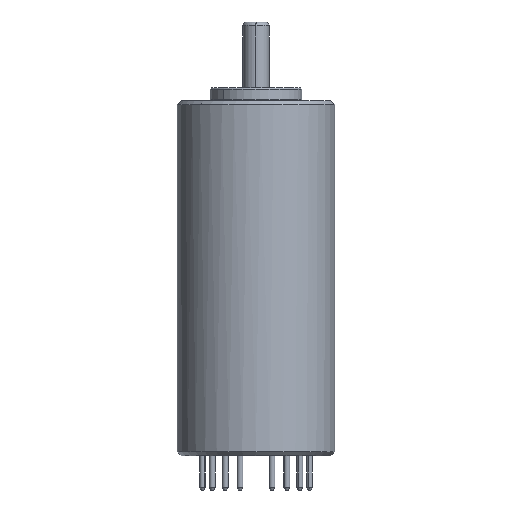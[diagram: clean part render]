
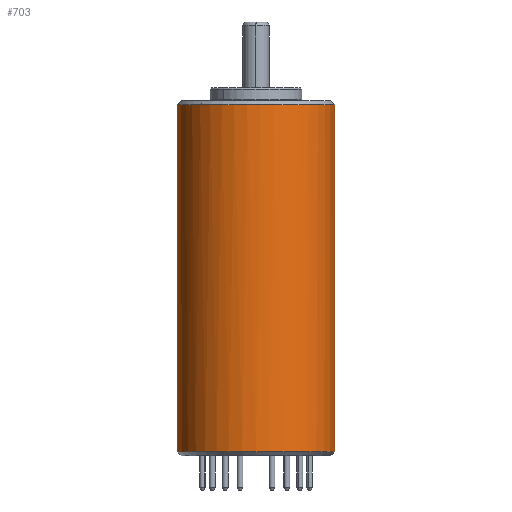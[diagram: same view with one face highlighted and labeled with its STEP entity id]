
A CAD part, front view. The second image highlights one B-rep face of the part: STEP entity #703.
In plain terms, the highlighted cylindrical face has radius 6 mm (diameter 12 mm), a partial arc.
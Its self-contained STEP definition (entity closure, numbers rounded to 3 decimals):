
#7 = CIRCLE ( 'NONE', #730, 6. ) ;
#52 = VECTOR ( 'NONE', #4011, 1000. ) ;
#261 = CARTESIAN_POINT ( 'NONE',  ( -6., 0., -1. ) ) ;
#286 = CARTESIAN_POINT ( 'NONE',  ( 0., 0., -1. ) ) ;
#291 = EDGE_CURVE ( 'NONE', #3947, #651, #3375, .T. ) ;
#323 = CARTESIAN_POINT ( 'NONE',  ( -6., 0., 25.2 ) ) ;
#583 = CARTESIAN_POINT ( 'NONE',  ( 0., 0., 25.2 ) ) ;
#651 = VERTEX_POINT ( 'NONE', #3465 ) ;
#703 = ADVANCED_FACE ( 'NONE', ( #5512 ), #2435, .T. ) ;
#730 = AXIS2_PLACEMENT_3D ( 'NONE', #2423, #3723, #3293 ) ;
#807 = VERTEX_POINT ( 'NONE', #323 ) ;
#1094 = CARTESIAN_POINT ( 'NONE',  ( 0., 0., -1.2 ) ) ;
#1185 = AXIS2_PLACEMENT_3D ( 'NONE', #583, #1538, #1434 ) ;
#1259 = LINE ( 'NONE', #2268, #52 ) ;
#1291 = ORIENTED_EDGE ( 'NONE', *, *, #291, .T. ) ;
#1434 = DIRECTION ( 'NONE',  ( 0.707, 0.707, 0. ) ) ;
#1538 = DIRECTION ( 'NONE',  ( 0., 0., -1. ) ) ;
#1586 = DIRECTION ( 'NONE',  ( -1., 0., 0. ) ) ;
#1644 = VERTEX_POINT ( 'NONE', #1930 ) ;
#1704 = EDGE_CURVE ( 'NONE', #651, #807, #7, .T. ) ;
#1930 = CARTESIAN_POINT ( 'NONE',  ( -6., 0., -1.2 ) ) ;
#2143 = EDGE_CURVE ( 'NONE', #807, #1644, #5543, .T. ) ;
#2268 = CARTESIAN_POINT ( 'NONE',  ( 6., 0., -1. ) ) ;
#2277 = VERTEX_POINT ( 'NONE', #3461 ) ;
#2362 = ORIENTED_EDGE ( 'NONE', *, *, #1704, .T. ) ;
#2422 = DIRECTION ( 'NONE',  ( 1., 0., 0. ) ) ;
#2423 = CARTESIAN_POINT ( 'NONE',  ( 0., 0., 25.2 ) ) ;
#2435 = CYLINDRICAL_SURFACE ( 'NONE', #5309, 6. ) ;
#2844 = DIRECTION ( 'NONE',  ( 0., 0., 1. ) ) ;
#3009 = EDGE_CURVE ( 'NONE', #3947, #2277, #1259, .T. ) ;
#3273 = ORIENTED_EDGE ( 'NONE', *, *, #3474, .T. ) ;
#3293 = DIRECTION ( 'NONE',  ( 0.707, 0.707, 0. ) ) ;
#3370 = DIRECTION ( 'NONE',  ( 0., 0., -1. ) ) ;
#3375 = CIRCLE ( 'NONE', #1185, 6. ) ;
#3405 = AXIS2_PLACEMENT_3D ( 'NONE', #1094, #2844, #2422 ) ;
#3461 = CARTESIAN_POINT ( 'NONE',  ( 6., 0., -1.2 ) ) ;
#3465 = CARTESIAN_POINT ( 'NONE',  ( -4.243, -4.243, 25.2 ) ) ;
#3471 = ORIENTED_EDGE ( 'NONE', *, *, #2143, .T. ) ;
#3474 = EDGE_CURVE ( 'NONE', #1644, #2277, #4314, .T. ) ;
#3723 = DIRECTION ( 'NONE',  ( 0., 0., -1. ) ) ;
#3820 = CARTESIAN_POINT ( 'NONE',  ( 6., 0., 25.2 ) ) ;
#3947 = VERTEX_POINT ( 'NONE', #3820 ) ;
#4011 = DIRECTION ( 'NONE',  ( 0., 0., -1. ) ) ;
#4314 = CIRCLE ( 'NONE', #3405, 6. ) ;
#4471 = ORIENTED_EDGE ( 'NONE', *, *, #3009, .F. ) ;
#5107 = EDGE_LOOP ( 'NONE', ( #4471, #1291, #2362, #3471, #3273 ) ) ;
#5309 = AXIS2_PLACEMENT_3D ( 'NONE', #286, #5430, #1586 ) ;
#5430 = DIRECTION ( 'NONE',  ( 0., 0., -1. ) ) ;
#5512 = FACE_OUTER_BOUND ( 'NONE', #5107, .T. ) ;
#5543 = LINE ( 'NONE', #261, #5572 ) ;
#5572 = VECTOR ( 'NONE', #3370, 1000. ) ;
